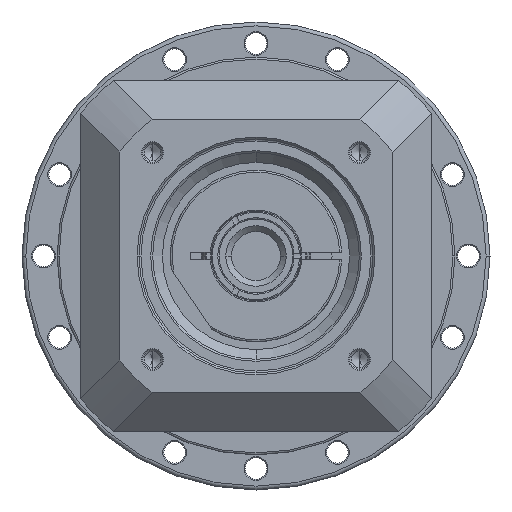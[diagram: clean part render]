
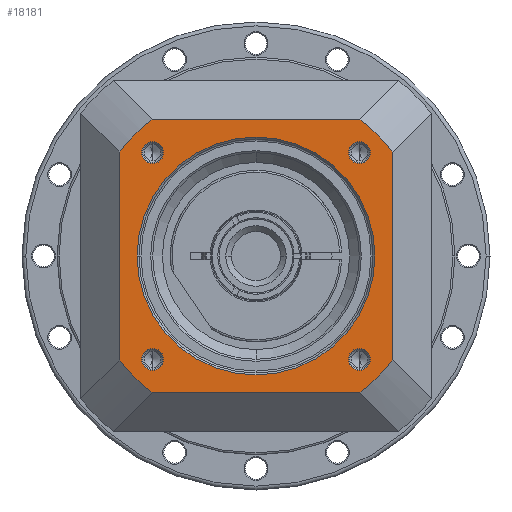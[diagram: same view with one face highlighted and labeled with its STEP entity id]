
A CAD part, left-side view. The second image highlights one B-rep face of the part: STEP entity #18181.
In plain terms, the highlighted planar face has unit normal (-1, 0, 0) as drawn and (0, 0, 1) by its records, which use the part's own axes.
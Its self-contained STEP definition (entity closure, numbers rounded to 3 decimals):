
#16921=CARTESIAN_POINT('',(0.,0.,
35.));
#16922=DIRECTION('',(0.,0.,-1.));
#16923=DIRECTION('',(0.,-1.,0.));
#16924=AXIS2_PLACEMENT_3D('',#16921,#16922,#16923);
#16926=CARTESIAN_POINT('',(0.,0.,
35.));
#16927=DIRECTION('',(0.,0.,-1.));
#16928=DIRECTION('',(0.,1.,0.));
#16929=AXIS2_PLACEMENT_3D('',#16926,#16927,#16928);
#16931=DIRECTION('',(1.,0.,0.));
#16932=VECTOR('',#16931,53.329);
#16933=CARTESIAN_POINT('',(-26.665,35.,35.));
#16934=LINE('',#16933,#16932);
#16935=CARTESIAN_POINT('',(0.,0.,35.));
#16936=DIRECTION('',(0.,0.,1.));
#16937=DIRECTION('',(0.795,0.606,0.));
#16938=AXIS2_PLACEMENT_3D('',#16935,#16936,#16937);
#16940=DIRECTION('',(0.,1.,0.));
#16941=VECTOR('',#16940,53.329);
#16942=CARTESIAN_POINT('',(35.,-26.665,35.));
#16943=LINE('',#16942,#16941);
#16944=DIRECTION('',(1.,0.,0.));
#16945=VECTOR('',#16944,53.329);
#16946=CARTESIAN_POINT('',(-26.665,-35.,35.));
#16947=LINE('',#16946,#16945);
#16948=CARTESIAN_POINT('',(0.,0.,35.));
#16949=DIRECTION('',(0.,0.,1.));
#16950=DIRECTION('',(-0.795,-0.606,0.));
#16951=AXIS2_PLACEMENT_3D('',#16948,#16949,#16950);
#16953=DIRECTION('',(0.,1.,0.));
#16954=VECTOR('',#16953,53.329);
#16955=CARTESIAN_POINT('',(-35.,-26.665,35.));
#16956=LINE('',#16955,#16954);
#16971=CARTESIAN_POINT('',(0.,0.,35.));
#16972=DIRECTION('',(0.,0.,1.));
#16973=DIRECTION('',(-0.606,0.795,0.));
#16974=AXIS2_PLACEMENT_3D('',#16971,#16972,#16973);
#16981=CARTESIAN_POINT('',(0.,0.,35.));
#16982=DIRECTION('',(0.,0.,1.));
#16983=DIRECTION('',(0.606,-0.795,0.));
#16984=AXIS2_PLACEMENT_3D('',#16981,#16982,#16983);
#16998=CARTESIAN_POINT('',(-26.665,35.,35.));
#17090=CARTESIAN_POINT('',(35.,-26.665,35.));
#17118=CARTESIAN_POINT('',(26.665,-35.,35.));
#17158=CARTESIAN_POINT('',(-35.,26.665,35.));
#17167=CARTESIAN_POINT('',(-26.517,26.517,35.));
#17168=DIRECTION('',(0.,0.,1.));
#17169=DIRECTION('',(-1.,0.,0.));
#17170=AXIS2_PLACEMENT_3D('',#17167,#17168,#17169);
#17185=CARTESIAN_POINT('',(-26.517,26.517,35.));
#17186=DIRECTION('',(0.,0.,1.));
#17187=DIRECTION('',(1.,0.,0.));
#17188=AXIS2_PLACEMENT_3D('',#17185,#17186,#17187);
#17221=CARTESIAN_POINT('',(26.517,26.517,35.));
#17222=DIRECTION('',(0.,0.,1.));
#17223=DIRECTION('',(-1.,0.,0.));
#17224=AXIS2_PLACEMENT_3D('',#17221,#17222,#17223);
#17239=CARTESIAN_POINT('',(26.517,26.517,35.));
#17240=DIRECTION('',(0.,0.,1.));
#17241=DIRECTION('',(1.,0.,0.));
#17242=AXIS2_PLACEMENT_3D('',#17239,#17240,#17241);
#17275=CARTESIAN_POINT('',(26.517,-26.517,35.));
#17276=DIRECTION('',(0.,0.,1.));
#17277=DIRECTION('',(-1.,0.,0.));
#17278=AXIS2_PLACEMENT_3D('',#17275,#17276,#17277);
#17293=CARTESIAN_POINT('',(26.517,-26.517,35.));
#17294=DIRECTION('',(0.,0.,1.));
#17295=DIRECTION('',(1.,0.,0.));
#17296=AXIS2_PLACEMENT_3D('',#17293,#17294,#17295);
#17329=CARTESIAN_POINT('',(-26.517,-26.517,35.));
#17330=DIRECTION('',(0.,0.,1.));
#17331=DIRECTION('',(-1.,0.,0.));
#17332=AXIS2_PLACEMENT_3D('',#17329,#17330,#17331);
#17347=CARTESIAN_POINT('',(-26.517,-26.517,35.));
#17348=DIRECTION('',(0.,0.,1.));
#17349=DIRECTION('',(1.,0.,0.));
#17350=AXIS2_PLACEMENT_3D('',#17347,#17348,#17349);
#17512=CARTESIAN_POINT('',(-29.317,26.517,35.));
#17513=CARTESIAN_POINT('',(-23.717,26.517,35.));
#17514=VERTEX_POINT('',#17512);
#17515=VERTEX_POINT('',#17513);
#17538=CARTESIAN_POINT('',(-35.,-26.665,35.));
#17539=CARTESIAN_POINT('',(-26.665,-35.,35.));
#17540=VERTEX_POINT('',#17538);
#17541=VERTEX_POINT('',#17539);
#17542=CARTESIAN_POINT('',(35.,26.665,35.));
#17543=CARTESIAN_POINT('',(26.665,35.,35.));
#17544=VERTEX_POINT('',#17542);
#17545=VERTEX_POINT('',#17543);
#17554=VERTEX_POINT('',#16998);
#17557=VERTEX_POINT('',#17090);
#17558=VERTEX_POINT('',#17118);
#17561=VERTEX_POINT('',#17158);
#17570=CARTESIAN_POINT('',(29.317,26.517,35.));
#17571=CARTESIAN_POINT('',(23.717,26.517,35.));
#17572=VERTEX_POINT('',#17570);
#17573=VERTEX_POINT('',#17571);
#17578=CARTESIAN_POINT('',(29.317,-26.517,35.));
#17579=CARTESIAN_POINT('',(23.717,-26.517,35.));
#17580=VERTEX_POINT('',#17578);
#17581=VERTEX_POINT('',#17579);
#17586=CARTESIAN_POINT('',(-23.717,-26.517,35.));
#17587=CARTESIAN_POINT('',(-29.317,-26.517,35.));
#17588=VERTEX_POINT('',#17586);
#17589=VERTEX_POINT('',#17587);
#17594=CARTESIAN_POINT('',(0.,-30.5,35.));
#17595=CARTESIAN_POINT('',(0.,30.5,35.));
#17596=VERTEX_POINT('',#17594);
#17597=VERTEX_POINT('',#17595);
#18129=CARTESIAN_POINT('',(0.,0.,35.));
#18130=DIRECTION('',(0.,0.,1.));
#18131=DIRECTION('',(1.,0.,0.));
#18132=AXIS2_PLACEMENT_3D('',#18129,#18130,#18131);
#18133=PLANE('',#18132);
#18135=ORIENTED_EDGE('',*,*,#18134,.F.);
#18137=ORIENTED_EDGE('',*,*,#18136,.T.);
#18139=ORIENTED_EDGE('',*,*,#18138,.F.);
#18141=ORIENTED_EDGE('',*,*,#18140,.F.);
#18143=ORIENTED_EDGE('',*,*,#18142,.F.);
#18145=ORIENTED_EDGE('',*,*,#18144,.F.);
#18147=ORIENTED_EDGE('',*,*,#18146,.F.);
#18149=ORIENTED_EDGE('',*,*,#18148,.T.);
#18150=EDGE_LOOP('',(#18135,#18137,#18139,#18141,#18143,#18145,#18147,#18149));
#18151=FACE_OUTER_BOUND('',#18150,.F.);
#18152=ORIENTED_EDGE('',*,*,#18119,.F.);
#18154=ORIENTED_EDGE('',*,*,#18153,.F.);
#18155=EDGE_LOOP('',(#18152,#18154));
#18156=FACE_BOUND('',#18155,.F.);
#18158=ORIENTED_EDGE('',*,*,#18157,.T.);
#18160=ORIENTED_EDGE('',*,*,#18159,.T.);
#18161=EDGE_LOOP('',(#18158,#18160));
#18162=FACE_BOUND('',#18161,.F.);
#18164=ORIENTED_EDGE('',*,*,#18163,.T.);
#18166=ORIENTED_EDGE('',*,*,#18165,.T.);
#18167=EDGE_LOOP('',(#18164,#18166));
#18168=FACE_BOUND('',#18167,.F.);
#18170=ORIENTED_EDGE('',*,*,#18169,.T.);
#18172=ORIENTED_EDGE('',*,*,#18171,.T.);
#18173=EDGE_LOOP('',(#18170,#18172));
#18174=FACE_BOUND('',#18173,.F.);
#18176=ORIENTED_EDGE('',*,*,#18175,.T.);
#18178=ORIENTED_EDGE('',*,*,#18177,.T.);
#18179=EDGE_LOOP('',(#18176,#18178));
#18180=FACE_BOUND('',#18179,.F.);
#18181=ADVANCED_FACE('',(#18151,#18156,#18162,#18168,#18174,#18180),#18133,.T.);
#16925=CIRCLE('',#16924,30.5);
#16930=CIRCLE('',#16929,30.5);
#16939=CIRCLE('',#16938,44.);
#16952=CIRCLE('',#16951,44.);
#16975=CIRCLE('',#16974,44.);
#16985=CIRCLE('',#16984,44.);
#17171=CIRCLE('',#17170,2.8);
#17189=CIRCLE('',#17188,2.8);
#17225=CIRCLE('',#17224,2.8);
#17243=CIRCLE('',#17242,2.8);
#17279=CIRCLE('',#17278,2.8);
#17297=CIRCLE('',#17296,2.8);
#17333=CIRCLE('',#17332,2.8);
#17351=CIRCLE('',#17350,2.8);
#18119=EDGE_CURVE('',#17596,#17597,#16925,.T.);
#18134=EDGE_CURVE('',#17554,#17561,#16975,.T.);
#18136=EDGE_CURVE('',#17554,#17545,#16934,.T.);
#18138=EDGE_CURVE('',#17544,#17545,#16939,.T.);
#18140=EDGE_CURVE('',#17557,#17544,#16943,.T.);
#18142=EDGE_CURVE('',#17558,#17557,#16985,.T.);
#18144=EDGE_CURVE('',#17541,#17558,#16947,.T.);
#18146=EDGE_CURVE('',#17540,#17541,#16952,.T.);
#18148=EDGE_CURVE('',#17540,#17561,#16956,.T.);
#18153=EDGE_CURVE('',#17597,#17596,#16930,.T.);
#18157=EDGE_CURVE('',#17514,#17515,#17171,.T.);
#18159=EDGE_CURVE('',#17515,#17514,#17189,.T.);
#18163=EDGE_CURVE('',#17573,#17572,#17225,.T.);
#18165=EDGE_CURVE('',#17572,#17573,#17243,.T.);
#18169=EDGE_CURVE('',#17581,#17580,#17279,.T.);
#18171=EDGE_CURVE('',#17580,#17581,#17297,.T.);
#18175=EDGE_CURVE('',#17589,#17588,#17333,.T.);
#18177=EDGE_CURVE('',#17588,#17589,#17351,.T.);
